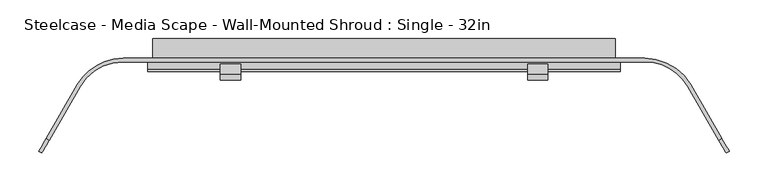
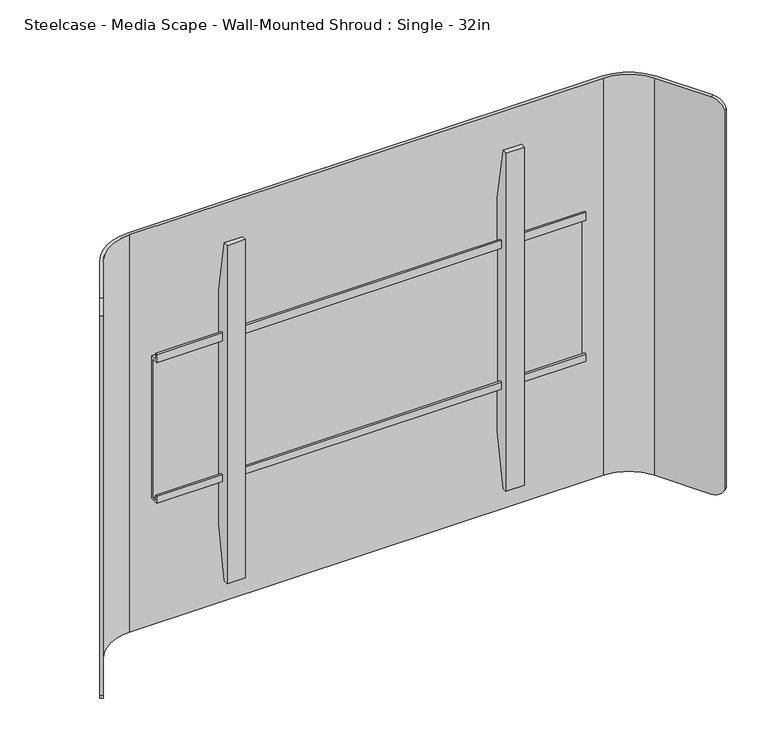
"""IFC4 building model written with IfcOpenShell, lengths in millimetres: furniture geometry, Steelcase - Media Scape - Wall-Mounted Shroud : Single - 32in."""

from ifc_helpers import new_model, si_unit, frame, origin, place, context, project, spatial, polyline, circle_curve, outline, extrude, source, transform, mapped, element, save
from ifc_brep_helpers import plane_surface, cylinder_surface, revolved_surface, advanced_brep


def steelcase_media_scape_wall_mounted_shroud_single_32in_a1e36d21(model_context):
    return source(origin(), model_context, "Body", "SolidModel", [
        extrude(outline(polyline([(-42.4942785, 1237.6504726), (-42.4942785, 1249.6645649), (-39.8272175, 1249.6645649), (-39.8272175, 1240.317461), (-29.9720009, 1240.317461), (-29.9720009, 1025.9922438), (-42.3164551, 1025.9922438), (-42.3164551, 1036.9142515), (-39.649394, 1036.9142515), (-39.649394, 1028.657052), (-32.6531824, 1028.657052), (-32.6531824, 1237.6504726), (-42.4942785, 1237.6504726)])), frame((-304.8, 0.0, 0.0), z_axis=(1.0, 0.0, 0.0), x_axis=(0.0, 1.0, 0.0)), (0.0, 0.0, 1.0), 609.6),
        extrude(outline(polyline([(-32.6531824, 1308.5971148), (-32.6531824, 956.7825607), (-46.5049349, 879.1546949), (-53.3399828, 879.1546949), (-53.3399828, 1387.1547192), (-46.5050076, 1387.1547192), (-32.6531824, 1308.5971148)])), frame((185.0392868, 0.0, 0.0), z_axis=(1.0, 0.0, 0.0), x_axis=(0.0, 1.0, 0.0)), (0.0, 0.0, 1.0), 26.1592872),
        extrude(outline(polyline([(-32.6531824, 1308.5971148), (-32.6531824, 956.7825607), (-46.5049349, 879.1546949), (-53.3399828, 879.1546949), (-53.3399828, 1387.1547192), (-46.5050076, 1387.1547192), (-32.6531824, 1308.5971148)])), frame((-211.198574, 0.0, 0.0), z_axis=(1.0, 0.0, 0.0), x_axis=(0.0, 1.0, 0.0)), (0.0, 0.0, 1.0), 26.1592872),
        advanced_brep(
        [(-391.5426135, -61.722, 1432.814), (-336.550002, -29.9720009, 1432.814), (336.55, -29.9720009, 1432.814), (391.5426135, -61.722, 1432.814), (431.663586, -131.2135628, 1432.814), (435.6230541, -128.9275628, 1432.814), (395.5020817, -59.436, 1432.814), (336.550002, -25.4, 1432.814), (-336.55, -25.4, 1432.814), (-395.5020817, -59.436, 1432.814), (-435.6261659, -128.9329524, 1432.814), (-431.6666977, -131.2189524, 1432.814), (-395.5020817, -59.436, 835.914), (-336.550002, -25.4, 835.914), (336.55, -25.4, 835.914), (395.5020817, -59.436, 835.914), (435.6746629, -129.0169518, 835.914), (431.7151948, -131.3029518, 835.914), (391.5426135, -61.722, 835.914), (336.550002, -29.9720009, 835.914), (-336.55, -29.9720009, 835.914), (-391.5426135, -61.722, 835.914), (-431.7294014, -131.3275584, 835.914), (-435.6888695, -129.0415584, 835.914), (-445.1930632, -145.5033047, 849.5242766), (-445.1930632, -145.5033047, 1418.8227735), (-441.2335951, -147.7893047, 1418.8227735), (-441.2335951, -147.7893047, 849.5242766), (441.2110866, -147.7503189, 849.4756893), (441.2110866, -147.7503189, 1418.9433849), (445.1705547, -145.4643189, 1418.9433849), (445.1705547, -145.4643189, 849.4756893)],
        [
            (0, 1, circle_curve(frame((-336.550002, -93.4719991, 1432.814), z_axis=(0.0, 0.0, -1.0), x_axis=(0.0, 1.0, 0.0)), 63.4999981)),
            (1, 2),
            (2, 3, circle_curve(frame((336.550002, -93.4719991, 1432.814), z_axis=(0.0, 0.0, -1.0), x_axis=(0.0, 1.0, 0.0)), 63.4999981)),
            (3, 4),
            (4, 5),
            (5, 6),
            (6, 7, circle_curve(frame((336.5500004, -93.472, 1432.814), z_axis=(0.0, 0.0, 1.0), x_axis=(0.0, 1.0, 0.0)), 68.072)),
            (7, 8),
            (8, 9, circle_curve(frame((-336.5500004, -93.472, 1432.814), z_axis=(0.0, 0.0, 1.0), x_axis=(0.0, 1.0, 0.0)), 68.072)),
            (9, 10),
            (10, 11),
            (11, 0),
            (12, 13, circle_curve(frame((-336.5500004, -93.472, 835.914), z_axis=(0.0, 0.0, -1.0), x_axis=(0.0, 1.0, 0.0)), 68.072)),
            (13, 14),
            (14, 15, circle_curve(frame((336.5500004, -93.472, 835.914), z_axis=(0.0, 0.0, -1.0), x_axis=(0.0, 1.0, 0.0)), 68.072)),
            (15, 16),
            (16, 17),
            (17, 18),
            (18, 19, circle_curve(frame((336.550002, -93.4719991, 835.914), z_axis=(0.0, 0.0, 1.0), x_axis=(0.0, 1.0, 0.0)), 63.4999981)),
            (19, 20),
            (20, 21, circle_curve(frame((-336.550002, -93.4719991, 835.914), z_axis=(0.0, 0.0, 1.0), x_axis=(0.0, 1.0, 0.0)), 63.4999981)),
            (21, 22),
            (22, 23),
            (23, 12),
            (0, 21),
            (20, 1),
            (8, 13),
            (12, 9),
            (23, 24, circle_curve(frame((-435.6888695, -129.0415584, 855.9928872), z_axis=(-0.866025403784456, 0.4999999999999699, 0.0), x_axis=(-0.4999999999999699, -0.866025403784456, 0.0)), 20.0788872)),
            (24, 25),
            (25, 10, circle_curve(frame((-435.6261659, -128.9329524, 1412.7351128), z_axis=(-0.8660254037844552, 0.4999999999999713, 0.0), x_axis=(-0.4999999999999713, -0.8660254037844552, 0.0)), 20.0788872)),
            (26, 25),
            (24, 27),
            (27, 26),
            (11, 26, circle_curve(frame((-431.6666977, -131.2189524, 1412.7351128), z_axis=(0.8660254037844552, -0.4999999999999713, 0.0), x_axis=(-0.4999999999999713, -0.8660254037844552, 0.0)), 20.0788872)),
            (27, 22, circle_curve(frame((-431.7294014, -131.3275584, 855.9928872), z_axis=(0.866025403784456, -0.4999999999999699, 0.0), x_axis=(-0.4999999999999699, -0.866025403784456, 0.0)), 20.0788872)),
            (7, 14),
            (19, 2),
            (3, 18),
            (17, 28, circle_curve(frame((431.7151948, -131.3029518, 855.9928872), z_axis=(-0.8660254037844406, -0.4999999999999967, 0.0), x_axis=(0.4999999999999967, -0.8660254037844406, 0.0)), 20.0788872)),
            (28, 29),
            (29, 4, circle_curve(frame((431.663586, -131.2135628, 1412.7351128), z_axis=(-0.8660254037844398, -0.49999999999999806, 0.0), x_axis=(0.49999999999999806, -0.8660254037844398, 0.0)), 20.0788872)),
            (30, 29),
            (28, 31),
            (31, 30),
            (15, 6),
            (5, 30, circle_curve(frame((435.6230541, -128.9275628, 1412.7351128), z_axis=(0.8660254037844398, 0.49999999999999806, 0.0), x_axis=(0.49999999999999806, -0.8660254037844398, 0.0)), 20.0788872)),
            (31, 16, circle_curve(frame((435.6746629, -129.0169518, 855.9928872), z_axis=(0.8660254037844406, 0.4999999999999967, 0.0), x_axis=(0.4999999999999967, -0.8660254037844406, 0.0)), 20.0788872)),
        ],
        [
            plane_surface(frame((-336.550002, -29.9720009, 1432.814), z_axis=(0.0, 0.0, 1.0), x_axis=(1.0, 0.0, 0.0))),
            plane_surface(frame((-336.550002, -29.9720009, 835.914), z_axis=(0.0, 0.0, -1.0), x_axis=(-1.0, 0.0, 0.0))),
            revolved_surface(polyline([(-336.550002, -29.972001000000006, 835.914), (-336.550002, -29.972001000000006, 1432.814)]), (-336.550002, -93.4719991, 835.914), (0.0, 0.0, -1.0)),
            cylinder_surface(frame((-336.5500004, -93.472, 835.914), z_axis=(0.0, 0.0, 1.0), x_axis=(0.0, 1.0, 0.0)), 68.072),
            plane_surface(frame((-395.5020817, -59.436, 1432.814), z_axis=(-0.866025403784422, 0.5000000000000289, 0.0), x_axis=(0.0, 0.0, -1.0))),
            plane_surface(frame((-445.1930632, -145.5033047, 1432.814), z_axis=(-0.5000000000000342, -0.866025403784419, 0.0), x_axis=(0.0, 0.0, -1.0))),
            plane_surface(frame((-441.2335951, -147.7893047, 1432.814), z_axis=(0.8660254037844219, -0.500000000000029, 0.0), x_axis=(0.0, 0.0, -1.0))),
            plane_surface(frame((336.55, -25.4, 1432.814), z_axis=(0.0, 1.0, 0.0), x_axis=(0.0, 0.0, -1.0))),
            plane_surface(frame((-336.55, -29.9720009, 1432.814), z_axis=(0.0, -1.0, 0.0), x_axis=(0.0, 0.0, -1.0))),
            plane_surface(frame((391.5426135, -61.722, 1432.814), z_axis=(-0.8660254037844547, -0.4999999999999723, 0.0), x_axis=(0.0, 0.0, -1.0))),
            plane_surface(frame((441.2110866, -147.7503189, 1432.814), z_axis=(0.4999999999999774, -0.8660254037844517, 0.0), x_axis=(0.0, 0.0, -1.0))),
            plane_surface(frame((445.1705547, -145.4643189, 1432.814), z_axis=(0.8660254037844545, 0.49999999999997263, 0.0), x_axis=(0.0, 0.0, -1.0))),
            cylinder_surface(frame((336.5500004, -93.472, 835.914), z_axis=(0.0, 0.0, 1.0), x_axis=(0.0, 1.0, 0.0)), 68.072),
            revolved_surface(polyline([(336.550002, -29.972001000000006, 835.914), (336.550002, -29.972001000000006, 1432.814)]), (336.550002, -93.4719991, 835.914), (0.0, 0.0, -1.0)),
            cylinder_surface(frame((-431.6666977, -131.2189524, 1412.7351128), z_axis=(0.8660254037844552, -0.4999999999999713, 0.0), x_axis=(-0.4999999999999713, -0.8660254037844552, 0.0)), 20.0788872),
            cylinder_surface(frame((-431.7294014, -131.3275584, 855.9928872), z_axis=(0.866025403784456, -0.4999999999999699, 0.0), x_axis=(-0.4999999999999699, -0.866025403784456, 0.0)), 20.0788872),
            cylinder_surface(frame((446.7704297, -122.4916225, 1412.7351128), z_axis=(0.8660254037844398, 0.49999999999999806, 0.0), x_axis=(0.49999999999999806, -0.8660254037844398, 0.0)), 20.0788872),
            cylinder_surface(frame((443.9629695, -124.2316958, 855.9928872), z_axis=(0.8660254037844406, 0.4999999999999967, 0.0), x_axis=(0.4999999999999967, -0.8660254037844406, 0.0)), 20.0788872),
        ],
        [
            (0, [[1, 2, 3, 4, 5, 6, 7, 8, 9, 10, 11, 12]]),
            (1, [[13, 14, 15, 16, 17, 18, 19, 20, 21, 22, 23, 24]]),
            (2, [[-1, 25, -21, 26]]),
            (3, [[-9, 27, -13, 28]]),
            (4, [[-28, -24, 29, 30, 31, -10]]),
            (5, [[32, -30, 33, 34]]),
            (6, [[-25, -12, 35, -34, 36, -22]]),
            (7, [[-8, 37, -14, -27]]),
            (8, [[-2, -26, -20, 38]]),
            (9, [[39, -18, 40, 41, 42, -4]]),
            (10, [[43, -41, 44, 45]]),
            (11, [[46, -6, 47, -45, 48, -16]]),
            (12, [[-7, -46, -15, -37]]),
            (13, [[-3, -38, -19, -39]]),
            (14, [[-11, -31, -32, -35]]),
            (15, [[-23, -36, -33, -29]]),
            (16, [[-5, -42, -43, -47]]),
            (17, [[-17, -48, -44, -40]]),
        ],
    ),
        extrude(outline(polyline([(912.1648167, 234.9499879), (912.1648167, 298.45), (1356.614, 298.45), (1356.614, -298.45), (912.1648167, -298.45), (912.1648167, -235.9433465), (1293.1139516, -235.9433465), (1293.1139516, 234.9499879), (912.1648167, 234.9499879)])), frame((0.0, -25.4, 0.0), z_axis=(0.0, 1.0, 0.0), x_axis=(0.0, 0.0, 1.0)), (0.0, 0.0, 1.0), 25.4),
    ])


if __name__ == "__main__":
    model = new_model("IFC4")
    model_context = context("Model", 3, world=origin())
    ifc_project = project(units=[si_unit("LENGTHUNIT", "METRE", prefix="MILLI")], contexts=[model_context])
    site = spatial("IfcSite", under=ifc_project)
    building = spatial("IfcBuilding", under=site)
    placement = place(None, origin())
    steelcase_media_scape_wall_mounted_shroud_single_32in_shape = steelcase_media_scape_wall_mounted_shroud_single_32in_a1e36d21(model_context)
    element("IfcFurniture", 1, ObjectType="Steelcase - Media Scape - Wall-Mounted Shroud : Single - 32in", at=placement, inside=building, context=model_context, shape_type="MappedRepresentation", body=[
        mapped(steelcase_media_scape_wall_mounted_shroud_single_32in_shape, transform((0.0, 0.0, 0.0), x_axis=(1.0, 0.0, 0.0), y_axis=(0.0, 1.0, 0.0), z_axis=(0.0, 0.0, 1.0))),
    ])
    save(model, "model.ifc")
